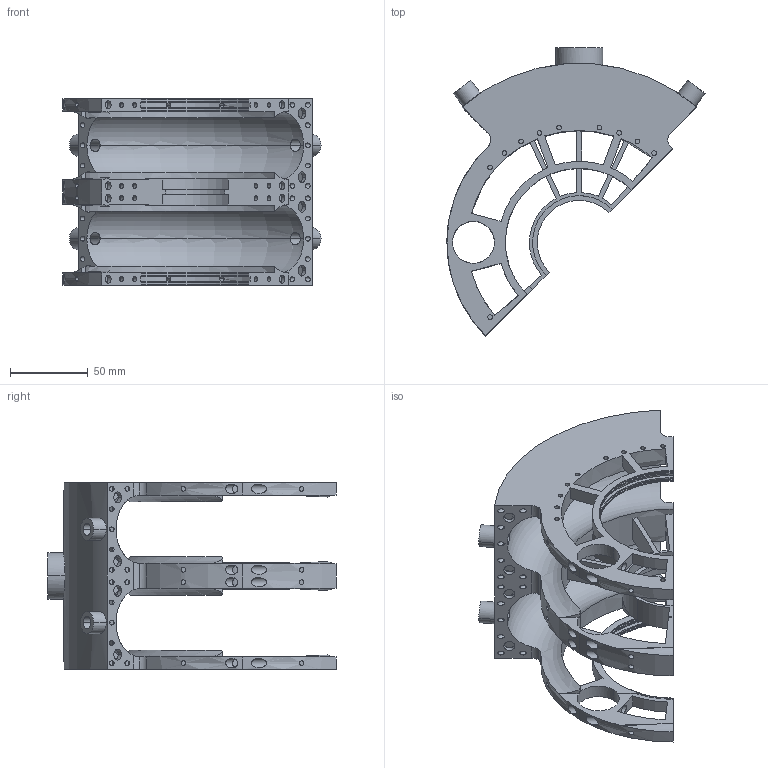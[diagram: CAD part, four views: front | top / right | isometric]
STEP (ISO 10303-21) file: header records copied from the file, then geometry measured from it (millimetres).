
FILE_DESCRIPTION(('STEP AP214'),'1');
FILE_NAME('C:/Users/mashimo/Documents/円弧動エンジン/ボア4.4ｃｍ/TurboCAD/3D/tmp0.STEP','2024-01-29T07:57:43',(' '),(' '),'Spatial InterOp 3D',' ',' ');
FILE_SCHEMA(('automotive_design'));
Length unit declared in the file: millimetre
Products named in the file (1): 1
Bounding box: 165.82 x 185.1 x 120 mm (x, y, z)
Volume: 306535.9 mm3; surface area: 207642.2 mm2
Topology: 1 solids, 1 shells, 724 faces, 2116 edges, 1420 vertices
Faces by surface type: cylinder 441, plane 247, torus 36
Entity records: 34764 total; most frequent: CARTESIAN_POINT 8689, DIRECTION 4448, ORIENTED_EDGE 4232, EDGE_CURVE 2116, AXIS2_PLACEMENT_3D 1793, VERTEX_POINT 1420, EDGE_LOOP 910, LINE 862
